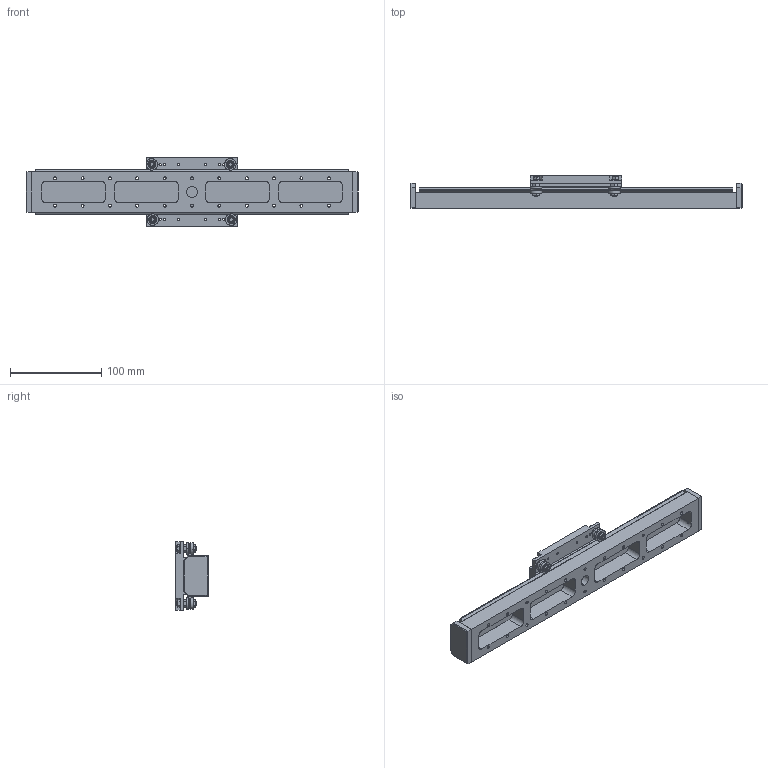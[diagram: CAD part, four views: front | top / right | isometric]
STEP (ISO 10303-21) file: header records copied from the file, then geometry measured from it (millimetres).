
FILE_DESCRIPTION (( 'STEP AP214' ), '1' );
FILE_NAME ('VSM23-P-250 - Simplified.STEP', '2024-06-21T09:18:11', ( '' ), ( '' ), 'SwSTEP 2.0', 'SolidWorks 2024', '' );
FILE_SCHEMA (( 'AUTOMOTIVE_DESIGN' ));
Length unit declared in the file: millimetre
Products named in the file (16): Ball; Eccentric shaft_Simplified; Concentric shaft_Simplified; Inner_Simplified; VSM23-P Passive Carriage_Simplified; M4 Washer; Bearing_Simplified; Outer_Simplified; P0301.040-A2_P0301.040-A2; VSM23-P End Plate_Simplified; VSM23-P-250 Base plate_Simplified; Eccentric Bearing Assy_Simplified; Concentric Bearing Assy_Simplified; VSM23-P Passive Carriage Assy_Simplified; VSM23-X-250 V-slide_Simplified; VSM23-P-250 - Simplified
Assembly tree (34 placements, depth 5):
  VSM23-P-250 - Simplified
    VSM23-P-250 Base plate_Simplified
    VSM23-X-250 V-slide_Simplified
    VSM23-P Passive Carriage Assy_Simplified
      VSM23-P Passive Carriage_Simplified
      Eccentric Bearing Assy_Simplified  x2
        Eccentric shaft_Simplified
        Bearing_Simplified
          Outer_Simplified
          Inner_Simplified
          Ball  x8
        P0301.040-A2_P0301.040-A2
      Concentric Bearing Assy_Simplified  x2
        Concentric shaft_Simplified
        Bearing_Simplified
          Outer_Simplified
          Inner_Simplified
          Ball  x8
        P0301.040-A2_P0301.040-A2
      M4 Washer  x2
      P0301.040-A2_P0301.040-A2  x4
    VSM23-P End Plate_Simplified  x2
Bounding box: 364 x 36 x 75 mm (x, y, z)
Volume: 318880.7 mm3; surface area: 121796.5 mm2
Topology: 99 solids, 99 shells, 997 faces, 2499 edges, 1614 vertices
Faces by surface type: cylinder 411, plane 258, sphere 128, cone 120, torus 80
Entity records: 14622 total; most frequent: CARTESIAN_POINT 2709, DIRECTION 2575, ORIENTED_EDGE 2214, EDGE_CURVE 1107, AXIS2_PLACEMENT_3D 1046, VERTEX_POINT 724, EDGE_LOOP 637, CIRCLE 576
